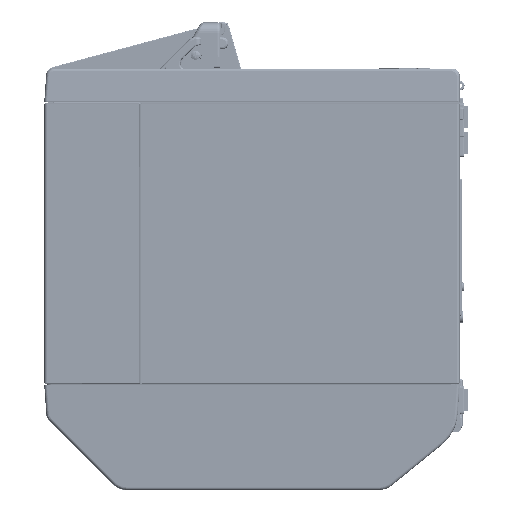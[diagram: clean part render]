
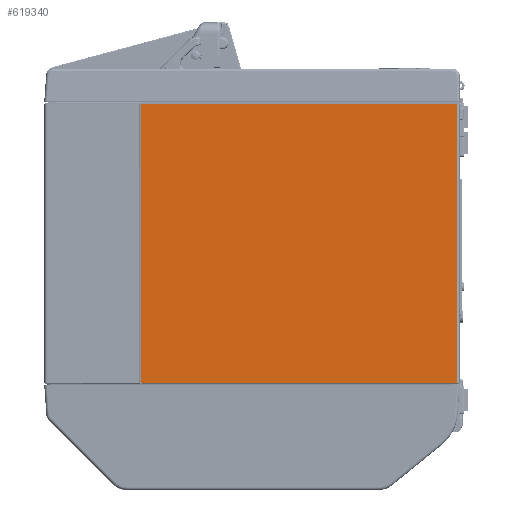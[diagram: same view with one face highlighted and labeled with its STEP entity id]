
A CAD part, left-side view. The second image highlights one B-rep face of the part: STEP entity #619340.
In plain terms, the highlighted planar face has unit normal (-1, 0, 0).
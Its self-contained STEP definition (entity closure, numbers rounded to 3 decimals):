
#614453=CARTESIAN_POINT('',(-142.,4.5,-91.));
#614454=DIRECTION('',(1.,0.,0.));
#614455=DIRECTION('',(0.,0.,-1.));
#614456=AXIS2_PLACEMENT_3D('',#614453,#614454,#614455);
#614458=CARTESIAN_POINT('',(-142.,4.5,96.1));
#614459=DIRECTION('',(1.,0.,0.));
#614460=DIRECTION('',(0.,1.,0.));
#614461=AXIS2_PLACEMENT_3D('',#614458,#614459,#614460);
#614467=DIRECTION('',(0.,1.,0.));
#614468=VECTOR('',#614467,211.5);
#614469=CARTESIAN_POINT('',(-142.,-207.,96.3));
#614470=LINE('',#614469,#614468);
#615479=DIRECTION('',(0.,0.,-1.));
#615480=VECTOR('',#615479,187.1);
#615481=CARTESIAN_POINT('',(-142.,4.7,96.1));
#615482=LINE('',#615481,#615480);
#615542=DIRECTION('',(0.,-1.,0.));
#615543=VECTOR('',#615542,211.5);
#615544=CARTESIAN_POINT('',(-142.,4.5,-91.2));
#615545=LINE('',#615544,#615543);
#615565=DIRECTION('',(0.,0.,1.));
#615566=VECTOR('',#615565,187.5);
#615567=CARTESIAN_POINT('',(-142.,-207.,-91.2));
#615568=LINE('',#615567,#615566);
#618626=CARTESIAN_POINT('',(-142.,-207.,96.3));
#618627=CARTESIAN_POINT('',(-142.,4.5,96.3));
#618628=VERTEX_POINT('',#618626);
#618629=VERTEX_POINT('',#618627);
#618630=CARTESIAN_POINT('',(-142.,-207.,-91.2));
#618631=VERTEX_POINT('',#618630);
#618632=CARTESIAN_POINT('',(-142.,4.5,-91.2));
#618633=VERTEX_POINT('',#618632);
#618634=CARTESIAN_POINT('',(-142.,4.7,-91.));
#618635=VERTEX_POINT('',#618634);
#618636=CARTESIAN_POINT('',(-142.,4.7,96.1));
#618637=VERTEX_POINT('',#618636);
#619321=CARTESIAN_POINT('',(-142.,-209.,96.6));
#619322=DIRECTION('',(1.,0.,0.));
#619323=DIRECTION('',(0.,0.,-1.));
#619324=AXIS2_PLACEMENT_3D('',#619321,#619322,#619323);
#619325=PLANE('',#619324);
#619327=ORIENTED_EDGE('',*,*,#619326,.F.);
#619329=ORIENTED_EDGE('',*,*,#619328,.F.);
#619331=ORIENTED_EDGE('',*,*,#619330,.F.);
#619333=ORIENTED_EDGE('',*,*,#619332,.T.);
#619335=ORIENTED_EDGE('',*,*,#619334,.F.);
#619337=ORIENTED_EDGE('',*,*,#619336,.T.);
#619338=EDGE_LOOP('',(#619327,#619329,#619331,#619333,#619335,#619337));
#619339=FACE_OUTER_BOUND('',#619338,.F.);
#614457=CIRCLE('',#614456,0.2);
#614462=CIRCLE('',#614461,0.2);
#619326=EDGE_CURVE('',#618628,#618629,#614470,.T.);
#619328=EDGE_CURVE('',#618631,#618628,#615568,.T.);
#619330=EDGE_CURVE('',#618633,#618631,#615545,.T.);
#619332=EDGE_CURVE('',#618633,#618635,#614457,.T.);
#619334=EDGE_CURVE('',#618637,#618635,#615482,.T.);
#619336=EDGE_CURVE('',#618637,#618629,#614462,.T.);
#619340=ADVANCED_FACE('',(#619339),#619325,.F.);
